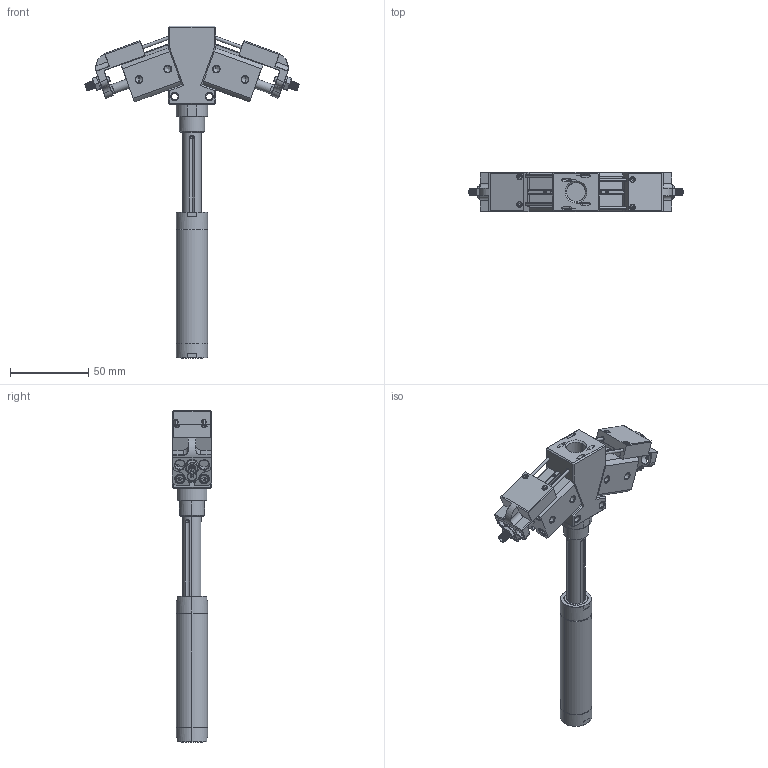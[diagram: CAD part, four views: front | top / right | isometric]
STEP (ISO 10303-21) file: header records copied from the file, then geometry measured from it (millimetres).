
FILE_DESCRIPTION (( 'STEP AP214' ), '1' );
FILE_NAME ('GN2010-S51.STEP', '2020-09-22T09:17:00', ( 'admin' ), ( '' ), 'SwSTEP 2.0', 'SolidWorks 2016', '' );
FILE_SCHEMA (( 'AUTOMOTIVE_DESIGN' ));
Length unit declared in the file: millimetre
Products named in the file (1): GN2010-S51
Bounding box: 136.67 x 25 x 211.7 mm (x, y, z)
Surface area: 59460.2 mm2 (no closed solid volume)
Topology: 0 solids, 60 shells, 2052 faces, 4732 edges, 2804 vertices
Faces by surface type: plane 833, cylinder 572, cone 547, bspline 100
Entity records: 78492 total; most frequent: CARTESIAN_POINT 33430, ORIENTED_EDGE 9249, DIRECTION 9094, EDGE_CURVE 4635, AXIS2_PLACEMENT_3D 3319, VERTEX_POINT 2800, VECTOR 2456, LINE 2456
